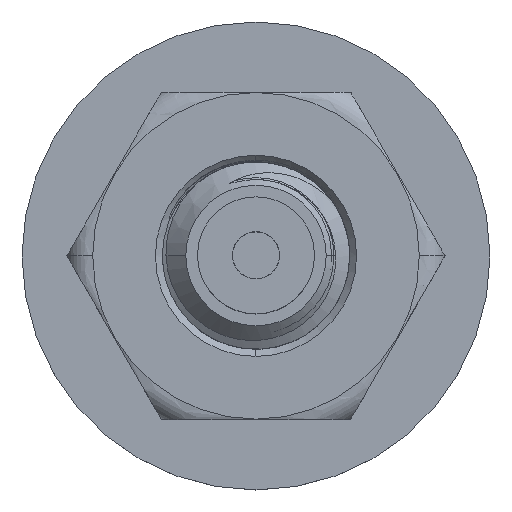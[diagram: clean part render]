
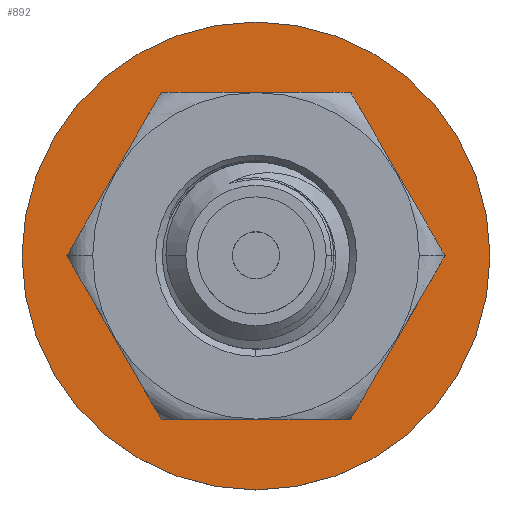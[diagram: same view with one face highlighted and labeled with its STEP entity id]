
A CAD part, top view. The second image highlights one B-rep face of the part: STEP entity #892.
In plain terms, the highlighted planar face has unit normal (0, 0, 1).
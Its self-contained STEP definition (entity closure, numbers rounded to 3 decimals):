
#255 = CARTESIAN_POINT ( 'NONE',  ( 0., 0., 0.5 ) ) ;
#574 = CARTESIAN_POINT ( 'NONE',  ( 0., 0., 0.5 ) ) ;
#892 = ADVANCED_FACE ( 'NONE', ( #7002, #1532 ), #6962, .T. ) ;
#1121 = AXIS2_PLACEMENT_3D ( 'NONE', #2289, #2779, #4437 ) ;
#1142 = EDGE_CURVE ( 'NONE', #6799, #2461, #1428, .T. ) ;
#1428 = CIRCLE ( 'NONE', #2099, 5. ) ;
#1464 = DIRECTION ( 'NONE',  ( 0., 0., 1. ) ) ;
#1532 = FACE_BOUND ( 'NONE', #4998, .T. ) ;
#1988 = VERTEX_POINT ( 'NONE', #3172 ) ;
#2099 = AXIS2_PLACEMENT_3D ( 'NONE', #574, #6000, #2692 ) ;
#2130 = EDGE_CURVE ( 'NONE', #4385, #1988, #2918, .T. ) ;
#2289 = CARTESIAN_POINT ( 'NONE',  ( 0., 0., 0.5 ) ) ;
#2461 = VERTEX_POINT ( 'NONE', #6247 ) ;
#2692 = DIRECTION ( 'NONE',  ( 1., 0., 0. ) ) ;
#2778 = ORIENTED_EDGE ( 'NONE', *, *, #1142, .T. ) ;
#2779 = DIRECTION ( 'NONE',  ( 0., 0., 1. ) ) ;
#2918 = CIRCLE ( 'NONE', #1121, 2.25 ) ;
#3046 = CIRCLE ( 'NONE', #5880, 5. ) ;
#3058 = DIRECTION ( 'NONE',  ( 1., 0., 0. ) ) ;
#3084 = DIRECTION ( 'NONE',  ( 1., 0., 0. ) ) ;
#3172 = CARTESIAN_POINT ( 'NONE',  ( -2.25, 0., 0.5 ) ) ;
#3498 = AXIS2_PLACEMENT_3D ( 'NONE', #6709, #6171, #5558 ) ;
#3899 = AXIS2_PLACEMENT_3D ( 'NONE', #6429, #1464, #3084 ) ;
#4092 = DIRECTION ( 'NONE',  ( 0., 0., 1. ) ) ;
#4385 = VERTEX_POINT ( 'NONE', #5932 ) ;
#4437 = DIRECTION ( 'NONE',  ( 1., 0., 0. ) ) ;
#4655 = ORIENTED_EDGE ( 'NONE', *, *, #6195, .T. ) ;
#4998 = EDGE_LOOP ( 'NONE', ( #6500, #5161 ) ) ;
#5161 = ORIENTED_EDGE ( 'NONE', *, *, #2130, .F. ) ;
#5558 = DIRECTION ( 'NONE',  ( 1., 0., 0. ) ) ;
#5740 = CARTESIAN_POINT ( 'NONE',  ( -5., 0., 0.5 ) ) ;
#5880 = AXIS2_PLACEMENT_3D ( 'NONE', #255, #4092, #3058 ) ;
#5932 = CARTESIAN_POINT ( 'NONE',  ( 2.25, 0., 0.5 ) ) ;
#6000 = DIRECTION ( 'NONE',  ( 0., 0., 1. ) ) ;
#6171 = DIRECTION ( 'NONE',  ( 0., 0., 1. ) ) ;
#6187 = EDGE_LOOP ( 'NONE', ( #2778, #4655 ) ) ;
#6195 = EDGE_CURVE ( 'NONE', #2461, #6799, #3046, .T. ) ;
#6247 = CARTESIAN_POINT ( 'NONE',  ( 5., 0., 0.5 ) ) ;
#6429 = CARTESIAN_POINT ( 'NONE',  ( 0., 0., 0.5 ) ) ;
#6500 = ORIENTED_EDGE ( 'NONE', *, *, #6716, .F. ) ;
#6709 = CARTESIAN_POINT ( 'NONE',  ( 0., 0., 0.5 ) ) ;
#6716 = EDGE_CURVE ( 'NONE', #1988, #4385, #6796, .T. ) ;
#6796 = CIRCLE ( 'NONE', #3498, 2.25 ) ;
#6799 = VERTEX_POINT ( 'NONE', #5740 ) ;
#6962 = PLANE ( 'NONE',  #3899 ) ;
#7002 = FACE_OUTER_BOUND ( 'NONE', #6187, .T. ) ;
